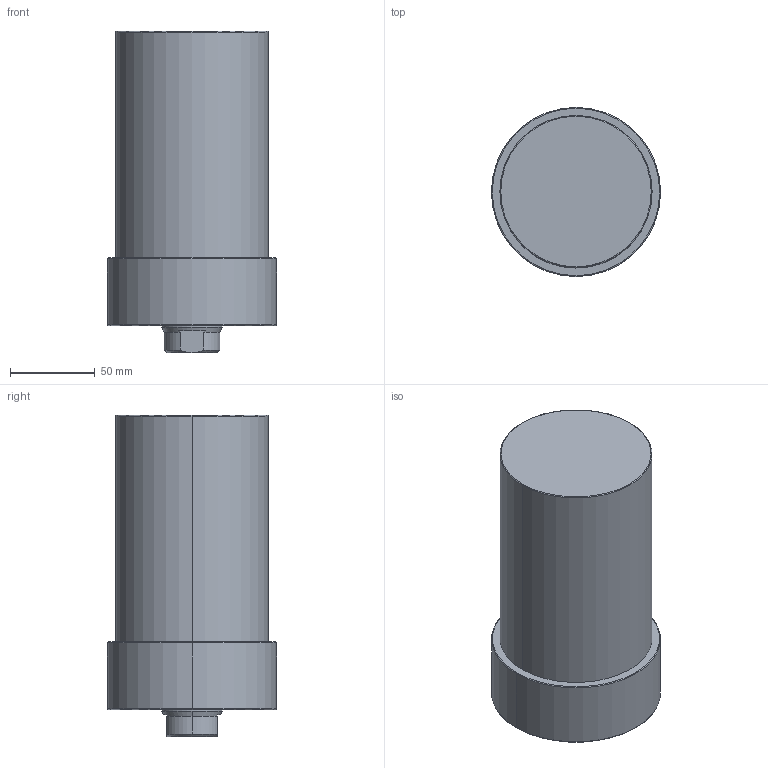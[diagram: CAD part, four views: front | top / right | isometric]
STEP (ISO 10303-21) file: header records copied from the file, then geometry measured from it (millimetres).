
FILE_DESCRIPTION (( 'STEP AP203' ), '1' );
FILE_NAME ('CLLU-090GA-090.STEP', '2020-01-13T03:34:38', ( '' ), ( '' ), 'SwSTEP 2.0', 'SolidWorks 2015', '' );
FILE_SCHEMA (( 'CONFIG_CONTROL_DESIGN' ));
Length unit declared in the file: millimetre
Products named in the file (1): CLLU-090GA-090
Bounding box: 100 x 100 x 190 mm (x, y, z)
Volume: 1160368.4 mm3; surface area: 73364.6 mm2
Topology: 1 solids, 1 shells, 64 faces, 143 edges, 80 vertices
Faces by surface type: cone 25, cylinder 23, plane 10, torus 6
Entity records: 1809 total; most frequent: DIRECTION 330, CARTESIAN_POINT 322, ORIENTED_EDGE 266, AXIS2_PLACEMENT_3D 140, EDGE_CURVE 133, VERTEX_POINT 80, CIRCLE 75, EDGE_LOOP 73
